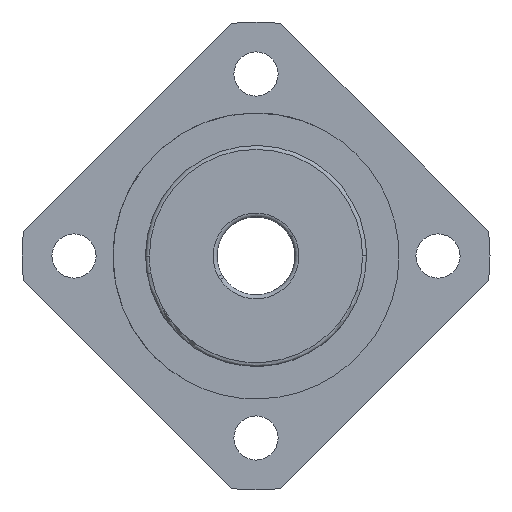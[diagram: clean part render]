
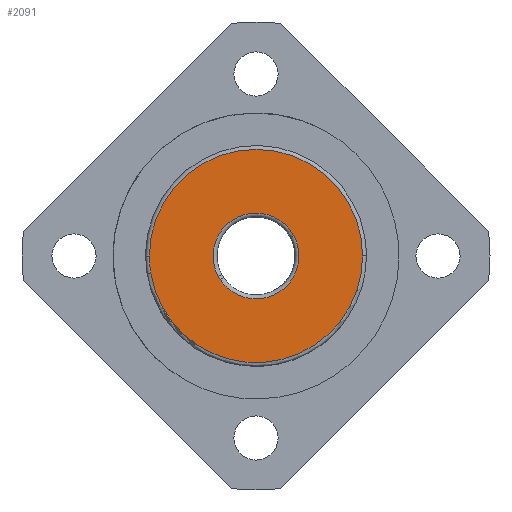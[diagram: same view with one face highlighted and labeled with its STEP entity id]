
A CAD part, left-side view. The second image highlights one B-rep face of the part: STEP entity #2091.
In plain terms, the highlighted planar face has unit normal (-1, 0, 0).
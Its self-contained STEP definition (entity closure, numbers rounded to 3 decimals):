
#1881=CARTESIAN_POINT('Vertex',(-3.,8.2,0.)) ;
#1884=CARTESIAN_POINT('Axis2P3D Location',(-3.,0.,0.)) ;
#1888=CARTESIAN_POINT('Vertex',(-3.,-8.2,0.)) ;
#1984=CARTESIAN_POINT('Vertex',(-3.,8.093,-1.322)) ;
#1987=CARTESIAN_POINT('Axis2P3D Location',(-3.,0.,0.)) ;
#2004=CARTESIAN_POINT('Axis2P3D Location',(-3.,0.,0.)) ;
#2016=CARTESIAN_POINT('Axis2P3D Location',(-3.,0.,0.)) ;
#2027=CARTESIAN_POINT('Control Point',(-3.,-2.896,1.582)) ;
#2028=CARTESIAN_POINT('Control Point',(-3.,-3.067,1.27)) ;
#2029=CARTESIAN_POINT('Control Point',(-3.,-3.195,0.934)) ;
#2030=CARTESIAN_POINT('Control Point',(-3.,-3.277,0.583)) ;
#2031=CARTESIAN_POINT('Control Point',(-3.,-3.345,-0.132)) ;
#2032=CARTESIAN_POINT('Control Point',(-3.,-3.221,-0.839)) ;
#2033=CARTESIAN_POINT('Control Point',(-3.,-3.112,-1.183)) ;
#2034=CARTESIAN_POINT('Control Point',(-3.,-2.803,-1.831)) ;
#2035=CARTESIAN_POINT('Control Point',(-3.,-2.333,-2.375)) ;
#2036=CARTESIAN_POINT('Control Point',(-3.,-2.063,-2.613)) ;
#2037=CARTESIAN_POINT('Control Point',(-3.,-1.464,-3.011)) ;
#2038=CARTESIAN_POINT('Control Point',(-3.,-0.782,-3.236)) ;
#2039=CARTESIAN_POINT('Control Point',(-3.,-0.428,-3.301)) ;
#2040=CARTESIAN_POINT('Control Point',(-3.,0.29,-3.335)) ;
#2041=CARTESIAN_POINT('Control Point',(-3.,0.991,-3.178)) ;
#2042=CARTESIAN_POINT('Control Point',(-3.,1.328,-3.052)) ;
#2043=CARTESIAN_POINT('Control Point',(-3.,1.856,-2.77)) ;
#2044=CARTESIAN_POINT('Control Point',(-3.,2.306,-2.378)) ;
#2045=CARTESIAN_POINT('Control Point',(-3.,2.472,-2.206)) ;
#2046=CARTESIAN_POINT('Control Point',(-3.,2.621,-2.019)) ;
#2047=CARTESIAN_POINT('Control Point',(-3.,2.752,-1.821)) ;
#2048=CARTESIAN_POINT('Vertex',(-3.,-2.896,1.582)) ;
#2050=CARTESIAN_POINT('Vertex',(-3.,2.752,-1.821)) ;
#2054=CARTESIAN_POINT('Control Point',(-3.,2.752,-1.821)) ;
#2055=CARTESIAN_POINT('Control Point',(-3.,2.783,-1.775)) ;
#2056=CARTESIAN_POINT('Control Point',(-3.,2.813,-1.727)) ;
#2057=CARTESIAN_POINT('Control Point',(-3.,2.841,-1.68)) ;
#2058=CARTESIAN_POINT('Control Point',(-3.,2.869,-1.631)) ;
#2059=CARTESIAN_POINT('Control Point',(-3.,2.896,-1.582)) ;
#2060=CARTESIAN_POINT('Vertex',(-3.,2.896,-1.582)) ;
#2064=CARTESIAN_POINT('Control Point',(-3.,2.896,-1.582)) ;
#2065=CARTESIAN_POINT('Control Point',(-3.,3.067,-1.27)) ;
#2066=CARTESIAN_POINT('Control Point',(-3.,3.195,-0.934)) ;
#2067=CARTESIAN_POINT('Control Point',(-3.,3.277,-0.583)) ;
#2068=CARTESIAN_POINT('Control Point',(-3.,3.345,0.132)) ;
#2069=CARTESIAN_POINT('Control Point',(-3.,3.221,0.839)) ;
#2070=CARTESIAN_POINT('Control Point',(-3.,3.112,1.183)) ;
#2071=CARTESIAN_POINT('Control Point',(-3.,2.803,1.831)) ;
#2072=CARTESIAN_POINT('Control Point',(-3.,2.333,2.375)) ;
#2073=CARTESIAN_POINT('Control Point',(-3.,2.063,2.613)) ;
#2074=CARTESIAN_POINT('Control Point',(-3.,1.464,3.011)) ;
#2075=CARTESIAN_POINT('Control Point',(-3.,0.782,3.236)) ;
#2076=CARTESIAN_POINT('Control Point',(-3.,0.428,3.301)) ;
#2077=CARTESIAN_POINT('Control Point',(-3.,-0.29,3.335)) ;
#2078=CARTESIAN_POINT('Control Point',(-3.,-0.991,3.178)) ;
#2079=CARTESIAN_POINT('Control Point',(-3.,-1.328,3.052)) ;
#2080=CARTESIAN_POINT('Control Point',(-3.,-1.906,2.743)) ;
#2081=CARTESIAN_POINT('Control Point',(-3.,-2.39,2.304)) ;
#2082=CARTESIAN_POINT('Control Point',(-3.,-2.586,2.082)) ;
#2083=CARTESIAN_POINT('Control Point',(-3.,-2.755,1.84)) ;
#2084=CARTESIAN_POINT('Control Point',(-3.,-2.896,1.582)) ;
#1885=DIRECTION('Axis2P3D Direction',(1.,-0.,0.)) ;
#1988=DIRECTION('Axis2P3D Direction',(1.,0.,0.)) ;
#2005=DIRECTION('Axis2P3D Direction',(1.,0.,0.)) ;
#2017=DIRECTION('Axis2P3D Direction',(1.,0.,0.)) ;
#2018=DIRECTION('Axis2P3D XDirection',(0.,1.,0.)) ;
#1886=AXIS2_PLACEMENT_3D('Circle Axis2P3D',#1884,#1885,$) ;
#1989=AXIS2_PLACEMENT_3D('Circle Axis2P3D',#1987,#1988,$) ;
#2006=AXIS2_PLACEMENT_3D('Circle Axis2P3D',#2004,#2005,$) ;
#2019=AXIS2_PLACEMENT_3D('Plane Axis2P3D',#2016,#2017,#2018) ;
#2022=ORIENTED_EDGE('',*,*,#2008,.F.) ;
#2023=ORIENTED_EDGE('',*,*,#1991,.F.) ;
#2024=ORIENTED_EDGE('',*,*,#1890,.F.) ;
#2087=ORIENTED_EDGE('',*,*,#2052,.T.) ;
#2088=ORIENTED_EDGE('',*,*,#2062,.T.) ;
#2089=ORIENTED_EDGE('',*,*,#2085,.T.) ;
#2090=FACE_BOUND('',#2086,.T.) ;
#2091=ADVANCED_FACE('606',(#2025,#2090),#2020,.F.) ;
#2026=B_SPLINE_CURVE_WITH_KNOTS('',5,(#2027,#2028,#2029,#2030,#2031,#2032,#2033,#2034,#2035,#2036,#2037,#2038,#2039,#2040,#2041,#2042,#2043,#2044,#2045,#2046,#2047),.UNSPECIFIED.,.F.,.U.,(6,3,3,3,3,3,6),(0.,2.517,5.034,7.551,10.068,12.586,14.266),.UNSPECIFIED.) ;
#2053=B_SPLINE_CURVE_WITH_KNOTS('',5,(#2054,#2055,#2056,#2057,#2058,#2059),.UNSPECIFIED.,.F.,.U.,(6,6),(14.266,14.661),.UNSPECIFIED.) ;
#2063=B_SPLINE_CURVE_WITH_KNOTS('',5,(#2064,#2065,#2066,#2067,#2068,#2069,#2070,#2071,#2072,#2073,#2074,#2075,#2076,#2077,#2078,#2079,#2080,#2081,#2082,#2083,#2084),.UNSPECIFIED.,.F.,.U.,(6,3,3,3,3,3,6),(0.,2.517,5.034,7.551,10.068,12.586,14.661),.UNSPECIFIED.) ;
#1887=CIRCLE('generated circle',#1886,8.2) ;
#1990=CIRCLE('generated circle',#1989,8.2) ;
#2007=CIRCLE('generated circle',#2006,8.2) ;
#1890=EDGE_CURVE('',#1882,#1889,#1887,.T.) ;
#1991=EDGE_CURVE('',#1889,#1985,#1990,.T.) ;
#2008=EDGE_CURVE('',#1985,#1882,#2007,.T.) ;
#2052=EDGE_CURVE('',#2049,#2051,#2026,.T.) ;
#2062=EDGE_CURVE('',#2051,#2061,#2053,.T.) ;
#2085=EDGE_CURVE('',#2061,#2049,#2063,.T.) ;
#2021=EDGE_LOOP('',(#2022,#2023,#2024)) ;
#2086=EDGE_LOOP('',(#2087,#2088,#2089)) ;
#2025=FACE_OUTER_BOUND('',#2021,.T.) ;
#2020=PLANE('Plane',#2019) ;
#1882=VERTEX_POINT('',#1881) ;
#1889=VERTEX_POINT('',#1888) ;
#1985=VERTEX_POINT('',#1984) ;
#2049=VERTEX_POINT('',#2048) ;
#2051=VERTEX_POINT('',#2050) ;
#2061=VERTEX_POINT('',#2060) ;
